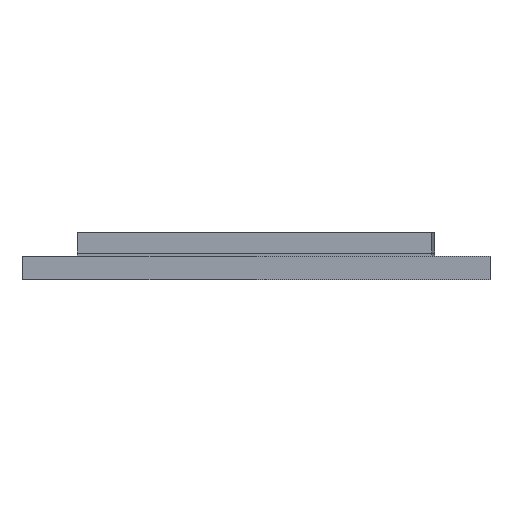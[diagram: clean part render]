
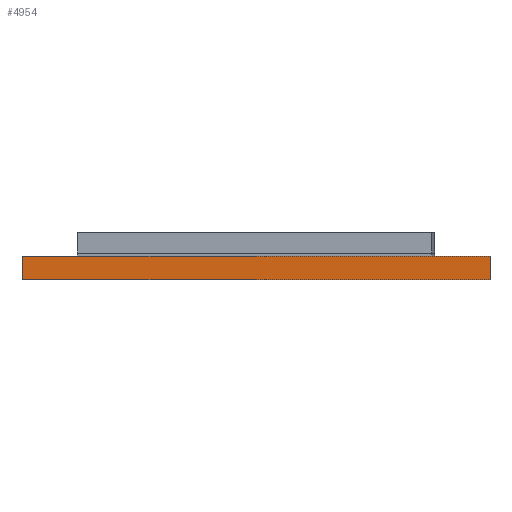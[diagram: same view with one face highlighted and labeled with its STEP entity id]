
A CAD part, front view. The second image highlights one B-rep face of the part: STEP entity #4954.
In plain terms, the highlighted planar face has unit normal (-0.07, -0.998, 0).
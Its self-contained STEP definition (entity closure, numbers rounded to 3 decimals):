
#231 = EDGE_LOOP ( 'NONE', ( #3849, #6787, #4473, #703 ) ) ;
#292 = DIRECTION ( 'NONE',  ( -0.998, 0.07, 0. ) ) ;
#398 = CARTESIAN_POINT ( 'NONE',  ( -1.665, -23.809, 0. ) ) ;
#703 = ORIENTED_EDGE ( 'NONE', *, *, #2559, .T. ) ;
#790 = CARTESIAN_POINT ( 'NONE',  ( 39.5, -26.687, 0. ) ) ;
#1057 = AXIS2_PLACEMENT_3D ( 'NONE', #790, #5138, #292 ) ;
#1449 = VERTEX_POINT ( 'NONE', #2459 ) ;
#1572 = LINE ( 'NONE', #3821, #5622 ) ;
#1593 = CARTESIAN_POINT ( 'NONE',  ( -39.5, -21.163, 4. ) ) ;
#1910 = VERTEX_POINT ( 'NONE', #3043 ) ;
#2011 = CARTESIAN_POINT ( 'NONE',  ( -39.5, -21.163, 0. ) ) ;
#2050 = VECTOR ( 'NONE', #4723, 1000. ) ;
#2140 = DIRECTION ( 'NONE',  ( 0.998, -0.07, 0. ) ) ;
#2389 = PLANE ( 'NONE',  #1057 ) ;
#2459 = CARTESIAN_POINT ( 'NONE',  ( -39.5, -21.163, 0. ) ) ;
#2460 = DIRECTION ( 'NONE',  ( 0., 0., 1. ) ) ;
#2559 = EDGE_CURVE ( 'NONE', #1910, #2803, #5719, .T. ) ;
#2803 = VERTEX_POINT ( 'NONE', #5464 ) ;
#3043 = CARTESIAN_POINT ( 'NONE',  ( 39.5, -26.687, 0. ) ) ;
#3185 = EDGE_CURVE ( 'NONE', #4111, #2803, #1572, .T. ) ;
#3821 = CARTESIAN_POINT ( 'NONE',  ( -1.665, -23.809, 4. ) ) ;
#3849 = ORIENTED_EDGE ( 'NONE', *, *, #3185, .F. ) ;
#4108 = LINE ( 'NONE', #2011, #5705 ) ;
#4111 = VERTEX_POINT ( 'NONE', #1593 ) ;
#4170 = DIRECTION ( 'NONE',  ( 0., 0., 1. ) ) ;
#4421 = VECTOR ( 'NONE', #2460, 1000. ) ;
#4473 = ORIENTED_EDGE ( 'NONE', *, *, #6297, .T. ) ;
#4723 = DIRECTION ( 'NONE',  ( 0.998, -0.07, 0. ) ) ;
#4954 = ADVANCED_FACE ( 'NONE', ( #6773 ), #2389, .T. ) ;
#5138 = DIRECTION ( 'NONE',  ( -0.07, -0.998, 0. ) ) ;
#5253 = LINE ( 'NONE', #398, #2050 ) ;
#5464 = CARTESIAN_POINT ( 'NONE',  ( 39.5, -26.687, 4. ) ) ;
#5517 = EDGE_CURVE ( 'NONE', #1449, #4111, #4108, .T. ) ;
#5622 = VECTOR ( 'NONE', #2140, 1000. ) ;
#5705 = VECTOR ( 'NONE', #4170, 1000. ) ;
#5719 = LINE ( 'NONE', #6710, #4421 ) ;
#6297 = EDGE_CURVE ( 'NONE', #1449, #1910, #5253, .T. ) ;
#6710 = CARTESIAN_POINT ( 'NONE',  ( 39.5, -26.687, 0. ) ) ;
#6773 = FACE_OUTER_BOUND ( 'NONE', #231, .T. ) ;
#6787 = ORIENTED_EDGE ( 'NONE', *, *, #5517, .F. ) ;
